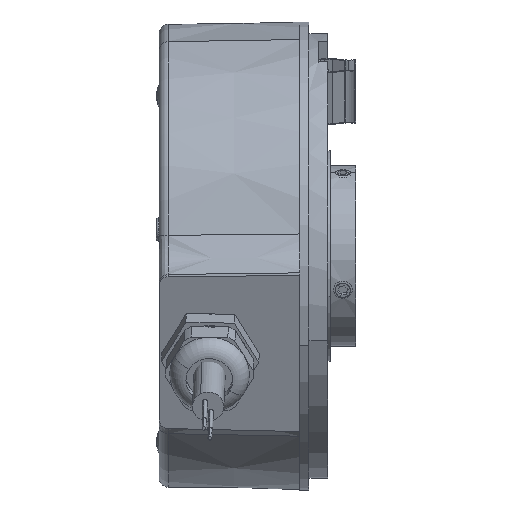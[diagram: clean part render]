
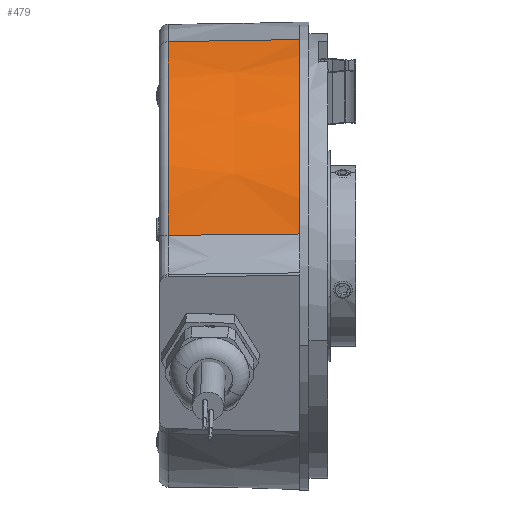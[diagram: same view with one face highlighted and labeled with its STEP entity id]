
A CAD part, front view. The second image highlights one B-rep face of the part: STEP entity #479.
In plain terms, the highlighted conical face has half-angle 1 degrees and reference radius 50 mm.
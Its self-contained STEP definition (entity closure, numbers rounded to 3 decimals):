
#479 = ADVANCED_FACE ( 'NONE', ( #8303 ), #8309, .T. ) ;
#2721 = ORIENTED_EDGE ( 'NONE', *, *, #3139, .F. ) ;
#2722 = ORIENTED_EDGE ( 'NONE', *, *, #3222, .T. ) ;
#2723 = ORIENTED_EDGE ( 'NONE', *, *, #3223, .T. ) ;
#2724 = ORIENTED_EDGE ( 'NONE', *, *, #3217, .T. ) ;
#3139 = EDGE_CURVE ( 'NONE', #4384, #4392, #13769, .T. ) ;
#3217 = EDGE_CURVE ( 'NONE', #6374, #4392, #13858, .T. ) ;
#3222 = EDGE_CURVE ( 'NONE', #4384, #6380, #13872, .T. ) ;
#3223 = EDGE_CURVE ( 'NONE', #6380, #6374, #15212, .T. ) ;
#4307 = EDGE_LOOP ( 'NONE', ( #2721, #2722, #2723, #2724 ) ) ;
#4384 = VERTEX_POINT ( 'NONE', #18926 ) ;
#4392 = VERTEX_POINT ( 'NONE', #18955 ) ;
#6374 = VERTEX_POINT ( 'NONE', #19777 ) ;
#6380 = VERTEX_POINT ( 'NONE', #19781 ) ;
#7086 = AXIS2_PLACEMENT_3D ( 'NONE', #9210, #9208, #9203 ) ;
#8303 = FACE_OUTER_BOUND ( 'NONE', #4307, .T. ) ;
#8309 = CONICAL_SURFACE ( 'NONE', #7086, 50., 0.017 ) ;
#9203 = DIRECTION ( 'NONE',  ( 0., -0.382, 0.924 ) ) ;
#9208 = DIRECTION ( 'NONE',  ( 1., 0., 0. ) ) ;
#9210 = CARTESIAN_POINT ( 'NONE',  ( 57.854, 38.624, 2.927 ) ) ;
#12370 = AXIS2_PLACEMENT_3D ( 'NONE', #14540, #14541, #14542 ) ;
#12372 = AXIS2_PLACEMENT_3D ( 'NONE', #14568, #14569, #14570 ) ;
#13655 = CARTESIAN_POINT ( 'NONE',  ( 57.854, 19.532, 49.138 ) ) ;
#13661 = DIRECTION ( 'NONE',  ( 1., -0.007, 0.016 ) ) ;
#13769 = LINE ( 'NONE', #13655, #13770 ) ;
#13770 = VECTOR ( 'NONE', #13661, 1000. ) ;
#13858 = CIRCLE ( 'NONE', #12370, 50. ) ;
#13872 = CIRCLE ( 'NONE', #12372, 49.511 ) ;
#14540 = CARTESIAN_POINT ( 'NONE',  ( 57.854, 38.624, 2.927 ) ) ;
#14541 = DIRECTION ( 'NONE',  ( -1., 0., 0. ) ) ;
#14542 = DIRECTION ( 'NONE',  ( 0., 0.382, -0.924 ) ) ;
#14566 = CARTESIAN_POINT ( 'NONE',  ( 29.819, -10.689, 7.337 ) ) ;
#14567 = CARTESIAN_POINT ( 'NONE',  ( 35.83, -10.789, 7.399 ) ) ;
#14568 = CARTESIAN_POINT ( 'NONE',  ( 29.819, 38.624, 2.927 ) ) ;
#14569 = DIRECTION ( 'NONE',  ( 1., 0., 0. ) ) ;
#14570 = DIRECTION ( 'NONE',  ( 0., 0.382, -0.924 ) ) ;
#14572 = CARTESIAN_POINT ( 'NONE',  ( 41.84, -10.889, 7.461 ) ) ;
#14573 = CARTESIAN_POINT ( 'NONE',  ( 47.851, -10.989, 7.524 ) ) ;
#14574 = CARTESIAN_POINT ( 'NONE',  ( 51.185, -11.044, 7.558 ) ) ;
#14575 = CARTESIAN_POINT ( 'NONE',  ( 54.52, -11.099, 7.593 ) ) ;
#14576 = CARTESIAN_POINT ( 'NONE',  ( 57.854, -11.154, 7.627 ) ) ;
#15212 = B_SPLINE_CURVE_WITH_KNOTS ( 'NONE', 3,
 ( #14566, #14567, #14572, #14573, #14574, #14575, #14576 ),
 .UNSPECIFIED., .F., .F.,
 ( 4, 3, 4 ),
 ( 0.002, 0.02, 0.03 ),
 .UNSPECIFIED. ) ;
#18926 = CARTESIAN_POINT ( 'NONE',  ( 29.819, 19.719, 48.686 ) ) ;
#18955 = CARTESIAN_POINT ( 'NONE',  ( 57.854, 19.532, 49.138 ) ) ;
#19777 = CARTESIAN_POINT ( 'NONE',  ( 57.854, -11.154, 7.627 ) ) ;
#19781 = CARTESIAN_POINT ( 'NONE',  ( 29.819, -10.689, 7.337 ) ) ;
